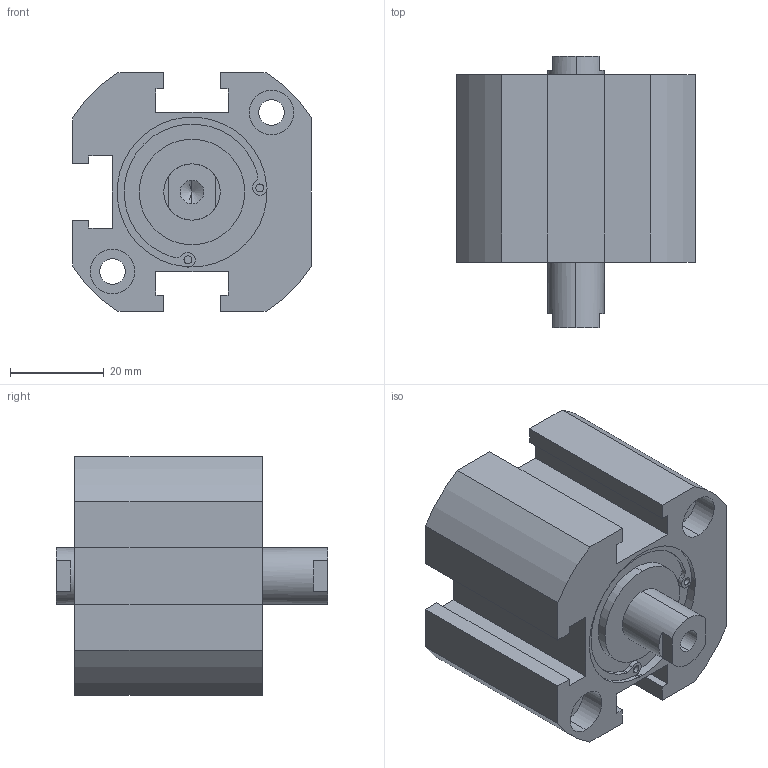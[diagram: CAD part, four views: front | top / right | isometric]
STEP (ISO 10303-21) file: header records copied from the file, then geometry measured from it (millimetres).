
FILE_DESCRIPTION (( 'STEP AP203' ), '1' );
FILE_NAME ('XC#7-32D-10.STEP', '2016-05-23T08:24:35', ( '' ), ( '' ), 'SwSTEP 2.0', 'SolidWorks 2014', '' );
FILE_SCHEMA (( 'CONFIG_CONTROL_DESIGN' ));
Length unit declared in the file: millimetre
Products named in the file (1): XC#7-32D-10
Bounding box: 51 x 58 x 51 mm (x, y, z)
Volume: 79022.6 mm3; surface area: 18266.7 mm2
Topology: 1 solids, 1 shells, 133 faces, 333 edges, 214 vertices
Faces by surface type: cylinder 65, plane 56, cone 12
Entity records: 4046 total; most frequent: DIRECTION 739, CARTESIAN_POINT 673, ORIENTED_EDGE 650, EDGE_CURVE 325, AXIS2_PLACEMENT_3D 280, VERTEX_POINT 214, VECTOR 179, LINE 179
